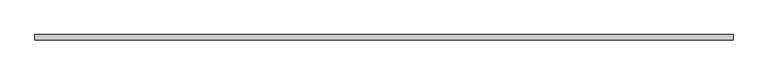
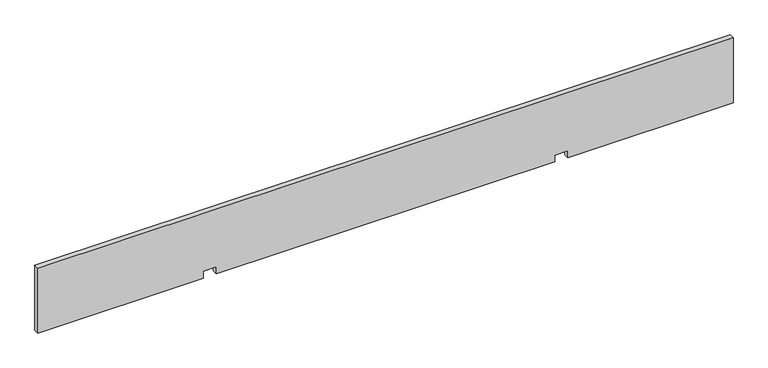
"""IFC4 building model written with IfcOpenShell, lengths in millimetres: proxy geometry."""

import ifcopenshell
import ifcopenshell.guid

model = None  # the IFC model being written
_history = None  # IfcOwnerHistory: only IFC2X3 demands one
_inside = {}  # id of a spatial element -> (the spatial element, [elements in it])
_under = {}  # id of a project, library or spatial element -> (it, [spatial elements below it])
_declared = {}  # id of a project -> (the project, [libraries it declares])
_typed = {}  # id of a type object -> (the type object, [elements of that type])
_made_of = {}  # id of a material, layer set ... -> (it, [elements and type objects made of it])


def new_model(schema):
    """Start an empty IFC model of exactly this schema.

    Asked for "IFC4X3", IfcOpenShell would pick the latest addendum, in which some entities
    have other attributes; the version numbers below select the first issue.
    IFC2X3 requires an IfcOwnerHistory on every rooted entity: one is made here for all.
    """
    global model, _history
    if schema == "IFC4X3":
        model = ifcopenshell.file(schema_version=(4, 3, 0, 0))
    else:
        model = ifcopenshell.file(schema=schema)
    _inside.clear()
    _under.clear()
    _declared.clear()
    _typed.clear()
    _made_of.clear()
    _history = None
    if model.schema == "IFC2X3":
        org = make("IfcOrganization", Name="unknown")
        user = make(
            "IfcPersonAndOrganization",
            ThePerson=make("IfcPerson", FamilyName="unknown"),
            TheOrganization=org,
        )
        app = make(
            "IfcApplication",
            ApplicationDeveloper=org,
            Version="unknown",
            ApplicationFullName="unknown",
            ApplicationIdentifier="unknown",
        )
        _history = make(
            "IfcOwnerHistory",
            OwningUser=user,
            OwningApplication=app,
            ChangeAction="ADDED",
            CreationDate=0,
        )
    return model


def make(cls, **values):
    """One entity of the class cls with the attributes given. An attribute that is None is left unset."""
    return model.create_entity(
        cls, **{name: value for name, value in values.items() if value is not None}
    )


def rooted(cls, **values):
    """An entity with a GlobalId (a new one), such as an element, a storey or a relation."""
    return make(cls, GlobalId=ifcopenshell.guid.new(), OwnerHistory=_history, **values)


def si_unit(unit_type, name, prefix=None):
    """IfcSIUnit, for example si_unit("LENGTHUNIT", "METRE", prefix="MILLI")."""
    return make("IfcSIUnit", UnitType=unit_type, Prefix=prefix, Name=name)


def assignment(units):
    """IfcUnitAssignment: the units of a project."""
    return None if units is None else make("IfcUnitAssignment", Units=units)


def point(xyz):
    """IfcCartesianPoint."""
    return None if xyz is None else make("IfcCartesianPoint", Coordinates=xyz)


def direction(xyz):
    """IfcDirection."""
    return None if xyz is None else make("IfcDirection", DirectionRatios=xyz)


def frame(location, z_axis=None, x_axis=None):
    """IfcAxis2Placement3D, a coordinate frame: its origin and axes. An axis left out is left unset."""
    return make(
        "IfcAxis2Placement3D",
        Location=point(location),
        Axis=direction(z_axis),
        RefDirection=direction(x_axis),
    )


def origin():
    """The frame at (0, 0, 0) with its axes left unset."""
    return frame((0.0, 0.0, 0.0))


def place(relative_to, where):
    """IfcLocalPlacement: puts the frame where relative to a parent placement (None: the world)."""
    return make(
        "IfcLocalPlacement", PlacementRelTo=relative_to, RelativePlacement=where
    )


def context(
    kind, dimensions, precision=None, world=None, true_north=None, identifier=None
):
    """IfcGeometricRepresentationContext, for example the 3D "Model" context."""
    return make(
        "IfcGeometricRepresentationContext",
        ContextIdentifier=identifier,
        ContextType=kind,
        CoordinateSpaceDimension=dimensions,
        Precision=precision,
        WorldCoordinateSystem=world,
        TrueNorth=true_north,
    )


def project(units=None, contexts=None):
    """IfcProject with its units and contexts."""
    return rooted(
        "IfcProject",
        Name="project",
        RepresentationContexts=contexts,
        UnitsInContext=assignment(units),
    )


def spatial(cls, under=None, at=None, **own):
    """A site, building, storey or space (cls), placed at a placement, below another one or the project."""
    s = rooted(cls, ObjectPlacement=at, **own)
    if under is not None:
        _under.setdefault(under.id(), (under, []))[1].append(s)
    return s


def polyline(points):
    """IfcPolyline through the points."""
    return make("IfcPolyline", Points=[point(p) for p in points])


def outline(outer, holes=None, kind="AREA"):
    """IfcArbitraryClosedProfileDef: a profile drawn as a closed curve; with holes, ...WithVoids."""
    if holes is None:
        return make("IfcArbitraryClosedProfileDef", ProfileType=kind, OuterCurve=outer)
    return make(
        "IfcArbitraryProfileDefWithVoids",
        ProfileType=kind,
        OuterCurve=outer,
        InnerCurves=holes,
    )


def extrude(swept, where, along, depth):
    """IfcExtrudedAreaSolid: the profile swept, set in the frame where, extruded along a direction by depth."""
    return make(
        "IfcExtrudedAreaSolid",
        SweptArea=swept,
        Position=where,
        ExtrudedDirection=direction(along),
        Depth=depth,
    )


def shape(context_of_items, identifier, shape_type, items):
    """IfcShapeRepresentation: the items that make up one representation, for example the "Body"."""
    return make(
        "IfcShapeRepresentation",
        ContextOfItems=context_of_items,
        RepresentationIdentifier=identifier,
        RepresentationType=shape_type,
        Items=items,
    )


def source(mapping_origin, context_of_items, identifier, shape_type, items):
    """IfcRepresentationMap: a shape defined once, which mapped items show again and again."""
    return make(
        "IfcRepresentationMap",
        MappingOrigin=mapping_origin,
        MappedRepresentation=shape(context_of_items, identifier, shape_type, items),
    )


def transform(
    local_origin,
    x_axis=None,
    y_axis=None,
    z_axis=None,
    scale=None,
    scale2=None,
    scale3=None,
    uniform=True,
):
    """IfcCartesianTransformationOperator3D, or its non-uniform kind. x_axis, y_axis, z_axis: its Axis1, 2, 3."""
    if uniform:
        return make(
            "IfcCartesianTransformationOperator3D",
            Axis1=direction(x_axis),
            Axis2=direction(y_axis),
            LocalOrigin=point(local_origin),
            Scale=scale,
            Axis3=direction(z_axis),
        )
    return make(
        "IfcCartesianTransformationOperator3DnonUniform",
        Axis1=direction(x_axis),
        Axis2=direction(y_axis),
        LocalOrigin=point(local_origin),
        Scale=scale,
        Axis3=direction(z_axis),
        Scale2=scale2,
        Scale3=scale3,
    )


def mapped(mapping_source, mapping_target):
    """IfcMappedItem: shows the shape of a source again, moved by a transform."""
    return make(
        "IfcMappedItem", MappingSource=mapping_source, MappingTarget=mapping_target
    )


def made_of(thing, what):
    """Note that an element or type object is made of a material, layer set ...; save() writes the relation."""
    if what is not None:
        _made_of.setdefault(what.id(), (what, []))[1].append(thing)
    return thing


def element(
    cls,
    number,
    at=None,
    inside=None,
    cuts=None,
    type_object=None,
    material=None,
    context=None,
    identifier="Body",
    shape_type=None,
    held_by="IfcProductDefinitionShape",
    body=None,
    shapes=None,
    **own,
):
    """One element of the class cls, such as IfcWall. Its Tag is "e" and its number.

    at: its placement. inside: the storey or other place that contains it. cuts: it is an
    opening in that element (IfcRelVoidsElement). A single representation is given by context,
    identifier, shape_type and body (its items); several are given by shapes. held_by: the class
    of the entity that holds the representations. save() writes the other relations.
    """
    e = rooted(cls, Tag="e%d" % number, ObjectPlacement=at, **own)
    if body is not None:
        shapes = [shape(context, identifier, shape_type, body)]
    if shapes is not None:
        e.Representation = make(held_by, Representations=shapes)
    if inside is not None:
        _inside.setdefault(inside.id(), (inside, []))[1].append(e)
    if cuts is not None:
        rooted(
            "IfcRelVoidsElement", RelatingBuildingElement=cuts, RelatedOpeningElement=e
        )
    if type_object is not None:
        _typed.setdefault(type_object.id(), (type_object, []))[1].append(e)
    return made_of(e, material)


def aggregate(whole, parts):
    """IfcRelAggregates: a whole, such as a stair, and the parts it consists of."""
    return rooted("IfcRelAggregates", RelatingObject=whole, RelatedObjects=parts)


def save(model, path):
    """Write the relations noted so far, then the file.

    IfcRelAggregates (storeys below a building ...), IfcRelContainedInSpatialStructure (elements
    in a storey), IfcRelDefinesByType, IfcRelAssociatesMaterial and IfcRelDeclares: one each for
    every whole, place, type object, material and project.
    """
    for whole, parts in _under.values():
        aggregate(whole, parts)
    for where, things in _inside.values():
        rooted(
            "IfcRelContainedInSpatialStructure",
            RelatedElements=things,
            RelatingStructure=where,
        )
    for kind, things in _typed.values():
        rooted("IfcRelDefinesByType", RelatedObjects=things, RelatingType=kind)
    for what, things in _made_of.values():
        rooted("IfcRelAssociatesMaterial", RelatedObjects=things, RelatingMaterial=what)
    for by, libraries in _declared.values():
        rooted("IfcRelDeclares", RelatingContext=by, RelatedDefinitions=libraries)
    model.write(path)


def specialty_equipment_ee209cf9(model_context):
    return source(origin(), model_context, "Body", "SweptSolid", [
        extrude(outline(polyline([(238.252, -1206.5), (0.0, -1206.5), (0.0, -632.5266291), (25.4635, -632.5266291), (25.4635, -586.6733709), (0.0, -586.6733709), (0.0, 586.6733709), (25.4635, 586.6733709), (25.4635, 632.5266291), (0.0, 632.5266291), (0.0, 1206.5), (238.252, 1206.5), (238.252, -1206.5)])), frame((0.0, -9.017, 0.0), z_axis=(0.0, 1.0, 0.0), x_axis=(0.0, 0.0, 1.0)), (0.0, 0.0, 1.0), 18.034),
    ])


if __name__ == "__main__":
    model = new_model("IFC4")
    model_context = context("Model", 3, world=origin())
    ifc_project = project(units=[si_unit("LENGTHUNIT", "METRE", prefix="MILLI")], contexts=[model_context])
    site = spatial("IfcSite", under=ifc_project)
    building = spatial("IfcBuilding", under=site)
    placement = place(None, origin())
    specialty_equipment_shape = specialty_equipment_ee209cf9(model_context)
    element("IfcBuildingElementProxy", 1, Name="SE_TIMBER BAFFLE_SINGLE_FB_TURF : 95\" - FELTLOCK", ObjectType="SE_TIMBER BAFFLE_SINGLE_FB_TURF : 95\" - FELTLOCK", at=placement, inside=building, context=model_context, shape_type="MappedRepresentation", body=[
        mapped(specialty_equipment_shape, transform((0.0, 0.0, 0.0), x_axis=(1.0, 0.0, 0.0), y_axis=(0.0, 1.0, 0.0), z_axis=(0.0, 0.0, 1.0))),
    ])
    save(model, "model.ifc")
